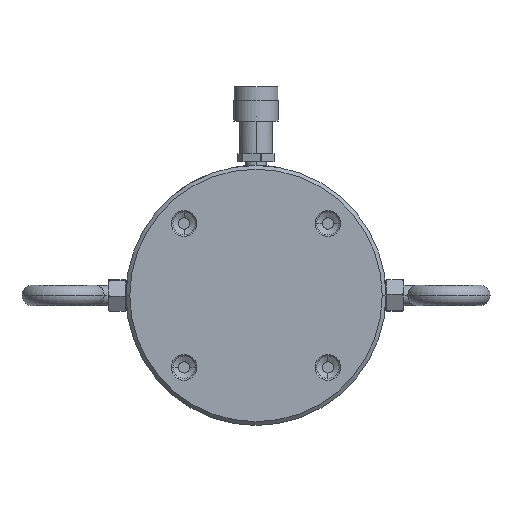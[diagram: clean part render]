
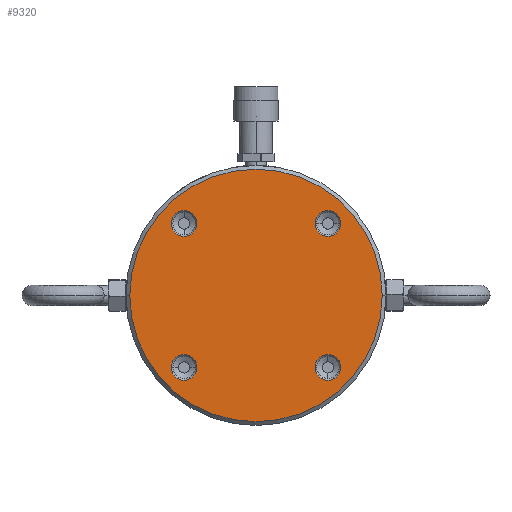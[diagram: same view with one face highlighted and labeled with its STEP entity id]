
A CAD part, front view. The second image highlights one B-rep face of the part: STEP entity #9320.
In plain terms, the highlighted planar face has unit normal (0, -1, 0).
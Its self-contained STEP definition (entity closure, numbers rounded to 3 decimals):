
#3129=CARTESIAN_POINT('',(0.,0.,0.));
#3130=DIRECTION('',(0.,1.,0.));
#3131=DIRECTION('',(-1.,0.,0.));
#3132=AXIS2_PLACEMENT_3D('',#3129,#3130,#3131);
#3139=CARTESIAN_POINT('',(-56.144,0.,-56.144));
#3140=DIRECTION('',(0.,-1.,0.));
#3141=DIRECTION('',(-1.,0.,0.));
#3142=AXIS2_PLACEMENT_3D('',#3139,#3140,#3141);
#3144=CARTESIAN_POINT('',(-56.144,0.,-56.144));
#3145=DIRECTION('',(0.,-1.,0.));
#3146=DIRECTION('',(1.,0.,0.));
#3147=AXIS2_PLACEMENT_3D('',#3144,#3145,#3146);
#3149=CARTESIAN_POINT('',(-56.144,0.,56.144));
#3150=DIRECTION('',(0.,-1.,0.));
#3151=DIRECTION('',(0.,0.,1.));
#3152=AXIS2_PLACEMENT_3D('',#3149,#3150,#3151);
#3154=CARTESIAN_POINT('',(-56.144,0.,56.144));
#3155=DIRECTION('',(0.,-1.,0.));
#3156=DIRECTION('',(0.,0.,-1.));
#3157=AXIS2_PLACEMENT_3D('',#3154,#3155,#3156);
#3159=CARTESIAN_POINT('',(56.144,0.,56.144));
#3160=DIRECTION('',(0.,-1.,0.));
#3161=DIRECTION('',(1.,0.,0.));
#3162=AXIS2_PLACEMENT_3D('',#3159,#3160,#3161);
#3164=CARTESIAN_POINT('',(56.144,0.,56.144));
#3165=DIRECTION('',(0.,-1.,0.));
#3166=DIRECTION('',(-1.,0.,0.));
#3167=AXIS2_PLACEMENT_3D('',#3164,#3165,#3166);
#3169=CARTESIAN_POINT('',(56.144,0.,-56.144));
#3170=DIRECTION('',(0.,-1.,0.));
#3171=DIRECTION('',(0.,0.,-1.));
#3172=AXIS2_PLACEMENT_3D('',#3169,#3170,#3171);
#3174=CARTESIAN_POINT('',(56.144,0.,-56.144));
#3175=DIRECTION('',(0.,-1.,0.));
#3176=DIRECTION('',(0.,0.,1.));
#3177=AXIS2_PLACEMENT_3D('',#3174,#3175,#3176);
#3179=CARTESIAN_POINT('',(0.,0.,0.));
#3180=DIRECTION('',(0.,1.,0.));
#3181=DIRECTION('',(1.,0.,0.));
#3182=AXIS2_PLACEMENT_3D('',#3179,#3180,#3181);
#5825=CARTESIAN_POINT('',(-98.5,0.,0.));
#5826=CARTESIAN_POINT('',(98.5,0.,0.));
#5827=VERTEX_POINT('',#5825);
#5828=VERTEX_POINT('',#5826);
#5889=CARTESIAN_POINT('',(-66.144,0.,-56.144));
#5890=CARTESIAN_POINT('',(-46.144,0.,-56.144));
#5891=VERTEX_POINT('',#5889);
#5892=VERTEX_POINT('',#5890);
#5901=CARTESIAN_POINT('',(-56.144,0.,66.144));
#5902=CARTESIAN_POINT('',(-56.144,0.,46.144));
#5903=VERTEX_POINT('',#5901);
#5904=VERTEX_POINT('',#5902);
#5913=CARTESIAN_POINT('',(66.144,0.,56.144));
#5914=CARTESIAN_POINT('',(46.144,0.,56.144));
#5915=VERTEX_POINT('',#5913);
#5916=VERTEX_POINT('',#5914);
#5925=CARTESIAN_POINT('',(56.144,0.,-66.144));
#5926=CARTESIAN_POINT('',(56.144,0.,-46.144));
#5927=VERTEX_POINT('',#5925);
#5928=VERTEX_POINT('',#5926);
#9286=CARTESIAN_POINT('',(0.,0.,0.));
#9287=DIRECTION('',(0.,1.,0.));
#9288=DIRECTION('',(1.,0.,0.));
#9289=AXIS2_PLACEMENT_3D('',#9286,#9287,#9288);
#9290=PLANE('',#9289);
#9292=ORIENTED_EDGE('',*,*,#9291,.T.);
#9293=ORIENTED_EDGE('',*,*,#9276,.T.);
#9294=EDGE_LOOP('',(#9292,#9293));
#9295=FACE_OUTER_BOUND('',#9294,.F.);
#9297=ORIENTED_EDGE('',*,*,#9296,.T.);
#9299=ORIENTED_EDGE('',*,*,#9298,.T.);
#9300=EDGE_LOOP('',(#9297,#9299));
#9301=FACE_BOUND('',#9300,.F.);
#9303=ORIENTED_EDGE('',*,*,#9302,.T.);
#9305=ORIENTED_EDGE('',*,*,#9304,.T.);
#9306=EDGE_LOOP('',(#9303,#9305));
#9307=FACE_BOUND('',#9306,.F.);
#9309=ORIENTED_EDGE('',*,*,#9308,.T.);
#9311=ORIENTED_EDGE('',*,*,#9310,.T.);
#9312=EDGE_LOOP('',(#9309,#9311));
#9313=FACE_BOUND('',#9312,.F.);
#9315=ORIENTED_EDGE('',*,*,#9314,.T.);
#9317=ORIENTED_EDGE('',*,*,#9316,.T.);
#9318=EDGE_LOOP('',(#9315,#9317));
#9319=FACE_BOUND('',#9318,.F.);
#9320=ADVANCED_FACE('',(#9295,#9301,#9307,#9313,#9319),#9290,.F.);
#3133=CIRCLE('',#3132,98.5);
#3143=CIRCLE('',#3142,10.);
#3148=CIRCLE('',#3147,10.);
#3153=CIRCLE('',#3152,10.);
#3158=CIRCLE('',#3157,10.);
#3163=CIRCLE('',#3162,10.);
#3168=CIRCLE('',#3167,10.);
#3173=CIRCLE('',#3172,10.);
#3178=CIRCLE('',#3177,10.);
#3183=CIRCLE('',#3182,98.5);
#9276=EDGE_CURVE('',#5827,#5828,#3133,.T.);
#9291=EDGE_CURVE('',#5828,#5827,#3183,.T.);
#9296=EDGE_CURVE('',#5891,#5892,#3143,.T.);
#9298=EDGE_CURVE('',#5892,#5891,#3148,.T.);
#9302=EDGE_CURVE('',#5903,#5904,#3153,.T.);
#9304=EDGE_CURVE('',#5904,#5903,#3158,.T.);
#9308=EDGE_CURVE('',#5915,#5916,#3163,.T.);
#9310=EDGE_CURVE('',#5916,#5915,#3168,.T.);
#9314=EDGE_CURVE('',#5927,#5928,#3173,.T.);
#9316=EDGE_CURVE('',#5928,#5927,#3178,.T.);
